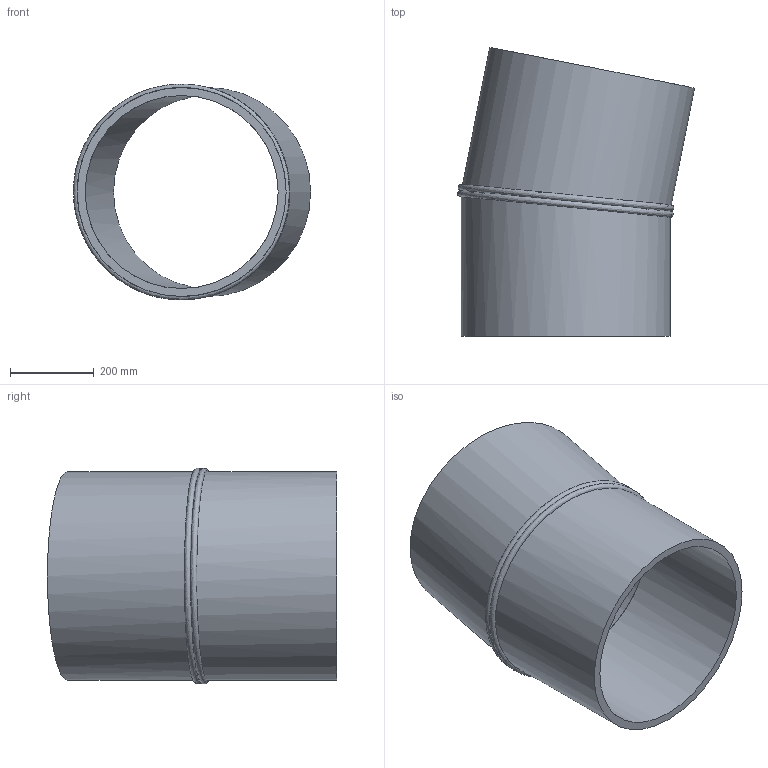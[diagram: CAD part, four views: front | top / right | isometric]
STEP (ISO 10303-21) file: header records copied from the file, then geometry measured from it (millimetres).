
FILE_DESCRIPTION(/* description */ ('Unknown'),/* implementation_level */ '2;1');
FILE_NAME(/* name */ 'Curva 11.25° a settore DE500 SDR26',/* time_stamp */ '2022-07-22T15:41:16+02:00',/* author */ ('Unknown'),/* organization */ ('Unknown'),/* preprocessor_version */ 'ST-DEVELOPER v18.102',/* originating_system */ 'Solid Edge',/* authorisation */ 'Unknown');
FILE_SCHEMA (('AUTOMOTIVE_DESIGN {1 0 10303 214 3 1 1}'));
Length unit declared in the file: millimetre
Products named in the file (2): Curva 11.25° a settore DE500 SDR26; Tubo x Gomito 11.25° DE500 SDR26
Assembly tree (2 placements, depth 2):
  Curva 11.25° a settore DE500 SDR26
    Tubo x Gomito 11.25° DE500 SDR26  x2
Bounding box: 567.48 x 691.78 x 516.45 mm (x, y, z)
Volume: 19051674.1 mm3; surface area: 2111022.8 mm2
Topology: 2 solids, 2 shells, 10 faces, 20 edges, 14 vertices
Faces by surface type: cylinder 4, plane 4, bspline 2
Full cylindrical faces by diameter (mm): 461.8 x2, 500 x2
Entity records: 1223 total; most frequent: CARTESIAN_POINT 1086, DIRECTION 20, ORIENTED_EDGE 10, EDGE_LOOP 10, FACE_BOUND 10, AXIS2_PLACEMENT_3D 10, EDGE_CURVE 5, VERTEX_POINT 5
